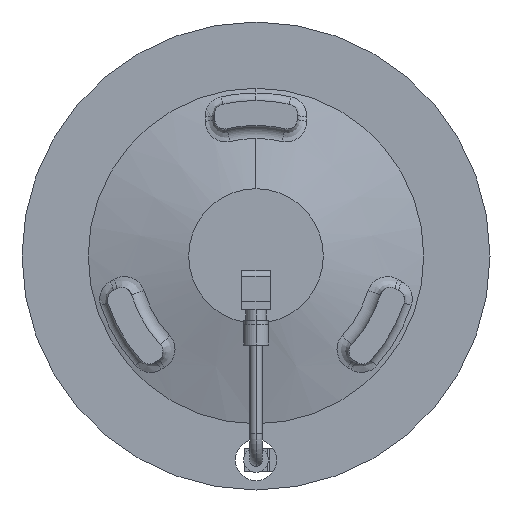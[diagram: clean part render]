
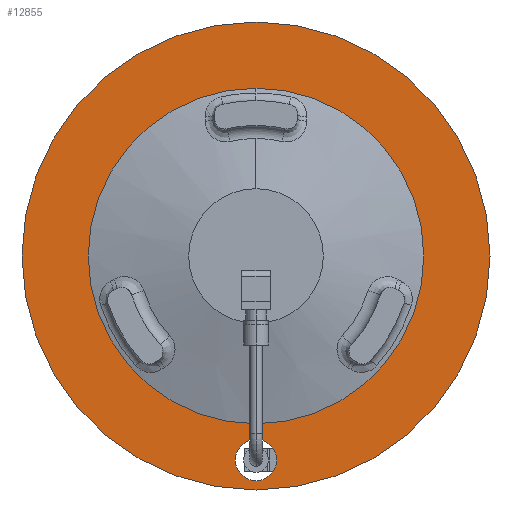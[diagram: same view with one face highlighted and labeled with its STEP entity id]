
A CAD part, front view. The second image highlights one B-rep face of the part: STEP entity #12855.
In plain terms, the highlighted planar face has unit normal (0, -1, 0).
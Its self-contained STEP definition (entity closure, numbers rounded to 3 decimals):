
#58 = AXIS2_PLACEMENT_3D ( 'NONE', #12578, #11331, #5005 ) ;
#283 = DIRECTION ( 'NONE',  ( 0., 1., 0. ) ) ;
#289 = CARTESIAN_POINT ( 'NONE',  ( 0., -151.8, 0. ) ) ;
#361 = DIRECTION ( 'NONE',  ( 0., 1., 0. ) ) ;
#824 = AXIS2_PLACEMENT_3D ( 'NONE', #8872, #2546, #3535 ) ;
#1499 = AXIS2_PLACEMENT_3D ( 'NONE', #6626, #283, #5376 ) ;
#1582 = DIRECTION ( 'NONE',  ( 0., -1., 0. ) ) ;
#1727 = AXIS2_PLACEMENT_3D ( 'NONE', #12594, #6256, #8942 ) ;
#1905 = ORIENTED_EDGE ( 'NONE', *, *, #4644, .T. ) ;
#2505 = EDGE_CURVE ( 'NONE', #3123, #9776, #2757, .T. ) ;
#2546 = DIRECTION ( 'NONE',  ( 0., -1., 0. ) ) ;
#2728 = DIRECTION ( 'NONE',  ( 0., 1., 0. ) ) ;
#2757 = CIRCLE ( 'NONE', #16109, 113. ) ;
#3123 = VERTEX_POINT ( 'NONE', #5021 ) ;
#3491 = ORIENTED_EDGE ( 'NONE', *, *, #10865, .F. ) ;
#3535 = DIRECTION ( 'NONE',  ( 0., 0., -1. ) ) ;
#3786 = FACE_BOUND ( 'NONE', #10776, .T. ) ;
#3865 = CIRCLE ( 'NONE', #10779, 10. ) ;
#4262 = CARTESIAN_POINT ( 'NONE',  ( 0., -151.8, -98.5 ) ) ;
#4314 = ORIENTED_EDGE ( 'NONE', *, *, #11668, .F. ) ;
#4644 = EDGE_CURVE ( 'NONE', #5540, #11772, #9412, .T. ) ;
#5005 = DIRECTION ( 'NONE',  ( 0., 0., -1. ) ) ;
#5021 = CARTESIAN_POINT ( 'NONE',  ( 0., -151.8, -113. ) ) ;
#5039 = FACE_OUTER_BOUND ( 'NONE', #13596, .T. ) ;
#5319 = EDGE_LOOP ( 'NONE', ( #15736, #1905 ) ) ;
#5376 = DIRECTION ( 'NONE',  ( 0., 0., 1. ) ) ;
#5540 = VERTEX_POINT ( 'NONE', #5725 ) ;
#5602 = CARTESIAN_POINT ( 'NONE',  ( 0., -151.8, -88.5 ) ) ;
#5725 = CARTESIAN_POINT ( 'NONE',  ( 0., -151.8, -81.017 ) ) ;
#5981 = VERTEX_POINT ( 'NONE', #10618 ) ;
#6256 = DIRECTION ( 'NONE',  ( 0., 1., 0. ) ) ;
#6626 = CARTESIAN_POINT ( 'NONE',  ( 0., -151.8, 0. ) ) ;
#6864 = CARTESIAN_POINT ( 'NONE',  ( 0., -151.8, 0. ) ) ;
#7218 = ORIENTED_EDGE ( 'NONE', *, *, #14324, .F. ) ;
#7238 = CIRCLE ( 'NONE', #58, 10. ) ;
#7783 = DIRECTION ( 'NONE',  ( 0., 0., 1. ) ) ;
#8002 = DIRECTION ( 'NONE',  ( 0., 0., -1. ) ) ;
#8148 = DIRECTION ( 'NONE',  ( 0., 0., 1. ) ) ;
#8695 = CIRCLE ( 'NONE', #1499, 81.017 ) ;
#8872 = CARTESIAN_POINT ( 'NONE',  ( -113., -151.8, 0. ) ) ;
#8932 = CIRCLE ( 'NONE', #1727, 113. ) ;
#8942 = DIRECTION ( 'NONE',  ( 0., 0., 1. ) ) ;
#9156 = AXIS2_PLACEMENT_3D ( 'NONE', #6864, #361, #7783 ) ;
#9412 = CIRCLE ( 'NONE', #9156, 81.017 ) ;
#9776 = VERTEX_POINT ( 'NONE', #11740 ) ;
#10415 = CARTESIAN_POINT ( 'NONE',  ( 0., -151.8, 81.017 ) ) ;
#10618 = CARTESIAN_POINT ( 'NONE',  ( 0., -151.8, -108.5 ) ) ;
#10776 = EDGE_LOOP ( 'NONE', ( #3491, #7218 ) ) ;
#10779 = AXIS2_PLACEMENT_3D ( 'NONE', #4262, #1582, #8002 ) ;
#10865 = EDGE_CURVE ( 'NONE', #14053, #5981, #3865, .T. ) ;
#11331 = DIRECTION ( 'NONE',  ( 0., -1., 0. ) ) ;
#11369 = FACE_BOUND ( 'NONE', #5319, .T. ) ;
#11668 = EDGE_CURVE ( 'NONE', #9776, #3123, #8932, .T. ) ;
#11740 = CARTESIAN_POINT ( 'NONE',  ( 0., -151.8, 113. ) ) ;
#11772 = VERTEX_POINT ( 'NONE', #10415 ) ;
#12578 = CARTESIAN_POINT ( 'NONE',  ( 0., -151.8, -98.5 ) ) ;
#12582 = EDGE_CURVE ( 'NONE', #11772, #5540, #8695, .T. ) ;
#12594 = CARTESIAN_POINT ( 'NONE',  ( 0., -151.8, 0. ) ) ;
#12789 = PLANE ( 'NONE',  #824 ) ;
#12855 = ADVANCED_FACE ( 'NONE', ( #3786, #11369, #5039 ), #12789, .T. ) ;
#13596 = EDGE_LOOP ( 'NONE', ( #4314, #15209 ) ) ;
#14053 = VERTEX_POINT ( 'NONE', #5602 ) ;
#14324 = EDGE_CURVE ( 'NONE', #5981, #14053, #7238, .T. ) ;
#15209 = ORIENTED_EDGE ( 'NONE', *, *, #2505, .F. ) ;
#15736 = ORIENTED_EDGE ( 'NONE', *, *, #12582, .T. ) ;
#16109 = AXIS2_PLACEMENT_3D ( 'NONE', #289, #2728, #8148 ) ;
